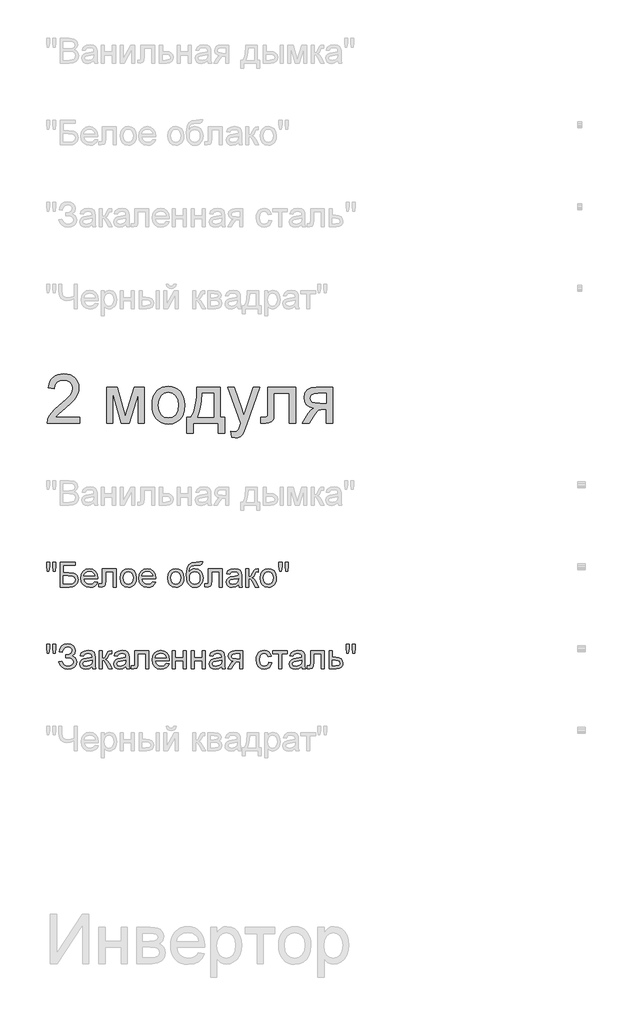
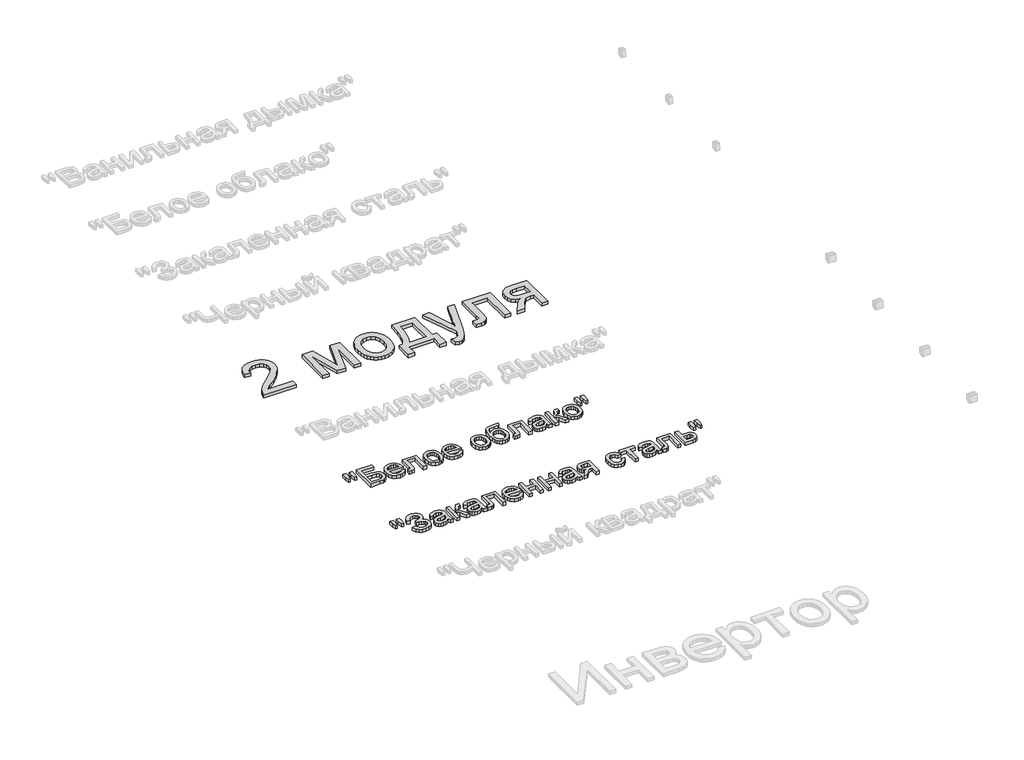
# One storey, part 51 of 168: 3 proxies.
"""IFC4 building model written with IfcOpenShell, lengths in millimetres."""

from ifc_helpers import new_model, si_unit, origin, origin_with_axes, place, context, project, spatial, polyline, outline, extrude, element, save

model = new_model("IFC4")

# Units and contexts
model_context = context("Model", 3, world=origin())
ifc_project = project(units=[si_unit("LENGTHUNIT", "METRE", prefix="MILLI")], contexts=[model_context])

# Site, building, storey
site = spatial("IfcSite", under=ifc_project)
building = spatial("IfcBuilding", under=site)
storey = spatial("IfcBuildingStorey", under=building, Name="Этаж 01", Elevation=0.0)

# Proxies
placement = place(None, origin())
element("IfcBuildingElementProxy", 1, Name="300 мм Arial 2", ObjectType="300 мм Arial 2", at=placement, inside=storey, context=model_context, shape_type="SweptSolid", body=[
    extrude(outline(polyline([(49278.0323041, -44229.1911814), (49278.0323041, -44266.8622977), (49080.2589435, -44266.8622977), (49084.3056455, -44240.8898289), (49093.5946658, -44220.5919398), (49107.1879056, -44200.901056), (49126.8511982, -44180.2904672), (49154.3503773, -44157.2334632), (49195.0013378, -44121.1258453), (49219.3919141, -44094.4727948), (49231.5872022, -44072.8413335), (49235.6522983, -44051.7984834), (49231.8171285, -44032.9353341), (49220.3116191, -44017.254364), (49202.6256922, -44006.6869537), (49180.2492698, -44003.1644836), (49156.7508074, -44006.6041802), (49138.4946633, -44016.9232702), (49126.7132424, -44033.3124131), (49122.6389493, -44054.9622685), (49084.967833, -44050.253379), (49094.1005036, -44013.8146674), (49102.6468622, -43999.27873), (49113.8465697, -43987.198405), (49127.4421086, -43977.702451), (49143.1759617, -43970.9196267), (49181.0586102, -43965.4933673), (49201.2484339, -43967.0016835), (49219.2171701, -43971.526632), (49234.9648188, -43979.0682129), (49248.4913799, -43989.6264262), (49259.3553951, -44002.4195226), (49267.1154059, -44016.6657528), (49271.7714124, -44032.365117), (49273.3234146, -44049.517615), (49271.6495515, -44067.5346357), (49266.6279623, -44085.2389567), (49257.7160209, -44103.2467804), (49244.3711016, -44122.174309), (49223.0983252, -44144.7714606), (49190.4028129, -44173.788153), (49147.0663138, -44210.0245295), (49130.0701657, -44229.1911814), (49278.0323041, -44229.1911814)])), origin_with_axes(), (0.0, 0.0, 1.0), 20.0),
    extrude(outline(polyline([(49442.843438, -44045.5444894), (49507.6642455, -44045.5444894), (49557.6226204, -44222.7164583), (49611.4805445, -44045.5444894), (49673.5790253, -44045.5444894), (49673.5790253, -44266.8622977), (49635.907909, -44266.8622977), (49635.907909, -44088.6602593), (49581.7556793, -44266.8622977), (49532.3123392, -44266.8622977), (49480.5145543, -44080.125397), (49480.5145543, -44266.8622977), (49442.843438, -44266.8622977), (49442.843438, -44045.5444894)])), origin_with_axes(), (0.0, 0.0, 1.0), 20.0),
    extrude(outline(polyline([(49720.6679207, -44156.2033936), (49722.7050673, -44127.5407876), (49728.8165069, -44102.8421102), (49739.0022396, -44082.1073612), (49753.2622655, -44065.3365408), (49767.6188603, -44054.6173791), (49783.4653773, -44046.9608351), (49800.8018163, -44042.3669087), (49819.6281774, -44040.8355999), (49840.4112109, -44042.7003018), (49859.203083, -44048.2944073), (49876.0037939, -44057.6179167), (49890.8133435, -44070.6708297), (49902.9005663, -44087.0116881), (49911.5342969, -44106.1990334), (49916.7145352, -44128.2328656), (49918.4412813, -44153.1131848), (49915.3878608, -44191.1705772), (49906.2275991, -44220.1412843), (49891.2272107, -44241.837125), (49870.6534101, -44258.069918), (49846.2168486, -44268.19587), (49819.6281774, -44271.5711873), (49798.5416413, -44269.7133832), (49779.5750252, -44264.139971), (49762.7283291, -44254.8509506), (49748.001553, -44241.8463221), (49736.0430888, -44225.3468146), (49727.5013288, -44205.5731573), (49722.3762727, -44182.5253503), (49720.6679207, -44156.2033936)]), holes=[polyline([(49758.339037, -44156.1298172), (49762.6984387, -44190.2232811), (49775.7766436, -44214.5126898), (49795.4583303, -44229.0532257), (49819.6281774, -44233.900071), (49843.6876599, -44229.0256345), (49863.3325584, -44214.4023252), (49876.4107634, -44189.7910197), (49880.770165, -44154.9525948), (49876.3831722, -44121.8524123), (49863.2221938, -44097.8940973), (49843.5497041, -44083.3535615), (49819.6281774, -44078.5067162), (49795.4583303, -44083.3351674), (49775.7766436, -44097.820521), (49762.6984387, -44122.0547474), (49758.339037, -44156.1298172)])]), origin_with_axes(), (0.0, 0.0, 1.0), 20.0),
    extrude(outline(polyline([(49993.7835139, -44045.5444894), (50135.0502001, -44045.5444894), (50135.0502001, -44229.1911814), (50163.3035373, -44229.1911814), (50163.3035373, -44328.0778617), (50125.632421, -44328.0778617), (50125.632421, -44266.8622977), (49970.2390662, -44266.8622977), (49970.2390662, -44328.0778617), (49932.5679499, -44328.0778617), (49932.5679499, -44229.1911814), (49956.1123976, -44229.1911814), (49973.2281074, -44198.2615027), (49985.2118634, -44157.3438278), (49992.0636656, -44106.4381567), (49993.7835139, -44045.5444894)]), holes=[polyline([(50026.7457407, -44083.2156057), (50023.6555319, -44129.3388109), (50017.9165728, -44169.0424752), (50009.5288633, -44202.3265987), (49998.4924035, -44229.1911814), (50097.3790838, -44229.1911814), (50097.3790838, -44083.2156057), (50026.7457407, -44083.2156057)])]), origin_with_axes(), (0.0, 0.0, 1.0), 20.0),
    extrude(outline(polyline([(50205.6835431, -44351.6223094), (50200.9746536, -44315.3491447), (50220.1045174, -44318.6600827), (50237.9835823, -44314.5030161), (50248.9464658, -44302.9147333), (50259.2471616, -44275.1764308), (50262.1902176, -44266.0529573), (50182.1390955, -44045.5444894), (50221.8703509, -44045.5444894), (50264.3239332, -44168.4170758), (50279.1127894, -44217.5661104), (50293.9016456, -44174.1560349), (50337.5324502, -44045.5444894), (50376.9694001, -44045.5444894), (50299.9349103, -44272.1597985), (50279.9221298, -44321.308833), (50269.6766162, -44336.9990001), (50258.0699393, -44347.8699131), (50244.5870641, -44354.2158775), (50228.712956, -44356.331199), (50205.6835431, -44351.6223094)])), origin_with_axes(), (0.0, 0.0, 1.0), 20.0),
    extrude(outline(polyline([(50427.0013514, -44045.5444894), (50596.5213748, -44045.5444894), (50596.5213748, -44266.6415685), (50558.8502585, -44266.6415685), (50558.8502585, -44083.2156057), (50464.6724678, -44083.2156057), (50464.6724678, -44188.7977384), (50462.134082, -44237.5053145), (50457.3792072, -44248.5325773), (50448.1913544, -44258.069918), (50434.2486268, -44264.6642028), (50415.2291276, -44266.8622977), (50384.6213456, -44264.9493114), (50384.6213456, -44229.1911814), (50401.470341, -44229.1911814), (50418.5032774, -44226.8735249), (50425.3090943, -44219.515885), (50427.0013514, -44186.6640228), (50427.0013514, -44045.5444894)])), origin_with_axes(), (0.0, 0.0, 1.0), 20.0),
    extrude(outline(polyline([(50822.5480727, -44045.5444894), (50822.5480727, -44266.8622977), (50784.8769564, -44266.8622977), (50784.8769564, -44182.102286), (50764.349141, -44182.102286), (50736.3901094, -44186.884752), (50725.2248908, -44197.3142065), (50710.1233349, -44219.0376384), (50680.1041641, -44266.8622977), (50636.5469359, -44266.8622977), (50674.365205, -44206.3824977), (50691.0670476, -44184.67746), (50706.444515, -44175.0389517), (50680.6927753, -44167.1478829), (50662.5929812, -44152.1566916), (50651.8876151, -44132.2174875), (50648.3191597, -44109.4823802), (50653.1935962, -44083.6938523), (50667.8169055, -44063.2764016), (50691.6740529, -44049.9774675), (50724.2500036, -44045.5444894), (50822.5480727, -44045.5444894)]), holes=[polyline([(50784.8769564, -44083.2156057), (50735.212887, -44083.2156057), (50709.5623149, -44085.3953066), (50695.0033849, -44091.934409), (50688.2435533, -44101.3981734), (50685.9902761, -44112.3518598), (50689.3104111, -44126.7084546), (50699.2708161, -44136.6688596), (50717.6741129, -44142.4905922), (50746.3229233, -44144.4311697), (50784.8769564, -44144.4311697), (50784.8769564, -44083.2156057)])]), origin_with_axes(), (0.0, 0.0, 1.0), 20.0),
])
element("IfcBuildingElementProxy", 2, Name="150", ObjectType="150", at=placement, inside=storey, context=model_context, shape_type="SweptSolid", body=[
    extrude(outline(polyline([(49080.1485789, -45170.3300622), (49075.550054, -45141.2305964), (49075.550054, -45116.1778325), (49094.3856121, -45116.1778325), (49094.3856121, -45141.2305964), (49090.2653338, -45170.3300622), (49080.1485789, -45170.3300622)])), origin_with_axes(), (0.0, 0.0, 1.0), 20.0),
    extrude(outline(polyline([(49117.7093306, -45170.3300622), (49113.2211703, -45141.2305964), (49113.2211703, -45116.1778325), (49132.0567284, -45116.1778325), (49132.0567284, -45141.2305964), (49127.6421445, -45170.3300622), (49117.7093306, -45170.3300622)])), origin_with_axes(), (0.0, 0.0, 1.0), 20.0),
    extrude(outline(polyline([(49157.9556209, -45116.1778325), (49252.1334117, -45116.1778325), (49252.1334117, -45135.0133907), (49176.791179, -45135.0133907), (49176.791179, -45179.7478413), (49212.0710624, -45179.7478413), (49243.157091, -45183.573814), (49253.5589544, -45189.101241), (49261.6615553, -45198.0315764), (49266.8762826, -45209.5278888), (49268.614525, -45222.7532465), (49263.6665122, -45244.2191609), (49248.8960501, -45260.5347274), (49235.6247071, -45265.2804052), (49215.4555767, -45266.8622977), (49157.9556209, -45266.8622977), (49157.9556209, -45116.1778325)]), holes=[polyline([(49176.791179, -45248.0267396), (49217.1478339, -45248.0267396), (49231.4124583, -45246.4724382), (49241.6119866, -45241.8095339), (49247.7372218, -45234.0380267), (49249.7789669, -45223.1579167), (49245.1068655, -45208.4058487), (49232.102237, -45200.533174), (49203.7201411, -45198.5833994), (49176.791179, -45198.5833994), (49176.791179, -45248.0267396)])]), origin_with_axes(), (0.0, 0.0, 1.0), 20.0),
    extrude(outline(polyline([(49369.6349209, -45233.900071), (49388.1025971, -45236.2545157), (49381.4485315, -45250.1696522), (49370.8305374, -45260.5715156), (49356.4877381, -45267.0554358), (49338.6592569, -45269.2167425), (49316.5587461, -45265.4873388), (49299.5534008, -45254.2991276), (49288.710079, -45236.3786759), (49285.0956384, -45212.4525506), (49288.7468672, -45187.7216835), (49299.7005536, -45169.2264162), (49316.4759726, -45157.6933157), (49337.5923991, -45153.8489488), (49358.0512366, -45157.6841186), (49374.3989927, -45169.189628), (49385.1181544, -45187.6481071), (49388.6912083, -45212.342186), (49388.5808437, -45217.4189576), (49303.9311966, -45217.4189576), (49307.1915508, -45231.518035), (49314.7653213, -45241.8831103), (49325.6960151, -45248.2566658), (49339.0271389, -45250.3811843), (49357.4948151, -45246.444847), (49369.6349209, -45233.900071)]), holes=[polyline([(49303.9311966, -45198.5833994), (49369.8556501, -45198.5833994), (49367.3080673, -45188.6321915), (49362.3140692, -45181.5136749), (49351.3327917, -45174.8917989), (49337.5188227, -45172.684507), (49324.8222954, -45174.445742), (49314.3238629, -45179.7294472), (49307.0260039, -45187.9654053), (49303.9311966, -45198.5833994)])]), origin_with_axes(), (0.0, 0.0, 1.0), 20.0),
    extrude(outline(polyline([(49416.9445455, -45156.2033936), (49501.7045572, -45156.2033936), (49501.7045572, -45266.7519331), (49482.868999, -45266.7519331), (49482.868999, -45175.0389517), (49435.7801036, -45175.0389517), (49435.7801036, -45227.830018), (49434.5109108, -45252.1838061), (49427.539547, -45262.4661079), (49411.0584336, -45266.8622977), (49395.7545426, -45265.9058045), (49395.7545426, -45248.0267396), (49404.1790403, -45248.0267396), (49412.6955084, -45246.8679113), (49416.0984169, -45243.1890913), (49416.9445455, -45226.7631603), (49416.9445455, -45156.2033936)])), origin_with_axes(), (0.0, 0.0, 1.0), 20.0),
    extrude(outline(polyline([(49525.2490049, -45211.5328457), (49529.323298, -45184.852204), (49541.5461773, -45166.0994193), (49556.6477332, -45156.9115664), (49574.7291332, -45153.8489488), (49594.516586, -45157.5783525), (49610.3217163, -45168.7665637), (49620.6821929, -45186.5306656), (49624.1356852, -45209.9877413), (49622.6089749, -45229.0164375), (49618.0288441, -45243.501791), (49610.5286499, -45254.3497114), (49600.2417496, -45262.4661079), (49588.0234688, -45267.5290839), (49574.7291332, -45269.2167425), (49554.7025571, -45265.5011344), (49538.915821, -45254.3543099), (49528.6657089, -45236.2177275), (49525.2490049, -45211.5328457)]), holes=[polyline([(49544.084563, -45211.4960575), (49546.2642638, -45228.5427894), (49552.8033663, -45240.6874938), (49562.6442097, -45247.9577617), (49574.7291332, -45250.3811843), (49586.7588745, -45247.9439661), (49596.5813237, -45240.6323115), (49603.1204262, -45228.3266587), (49605.300127, -45210.9074463), (49603.1066306, -45194.357355), (49596.5261414, -45182.3781975), (49586.6898966, -45175.1079296), (49574.7291332, -45172.684507), (49562.6442097, -45175.0987326), (49552.8033663, -45182.3414093), (49546.2642638, -45194.4585226), (49544.084563, -45211.4960575)])]), origin_with_axes(), (0.0, 0.0, 1.0), 20.0),
    extrude(outline(polyline([(49722.8016363, -45233.900071), (49741.2693124, -45236.2545157), (49734.6152469, -45250.1696522), (49723.9972528, -45260.5715156), (49709.6544535, -45267.0554358), (49691.8259723, -45269.2167425), (49669.7254614, -45265.4873388), (49652.7201162, -45254.2991276), (49641.8767944, -45236.3786759), (49638.2623538, -45212.4525506), (49641.9135826, -45187.7216835), (49652.867269, -45169.2264162), (49669.642688, -45157.6933157), (49690.7591145, -45153.8489488), (49711.217952, -45157.6841186), (49727.5657081, -45169.189628), (49738.2848698, -45187.6481071), (49741.8579236, -45212.342186), (49741.747559, -45217.4189576), (49657.0979119, -45217.4189576), (49660.3582661, -45231.518035), (49667.9320367, -45241.8831103), (49678.8627305, -45248.2566658), (49692.1938543, -45250.3811843), (49710.6615304, -45246.444847), (49722.8016363, -45233.900071)]), holes=[polyline([(49657.0979119, -45198.5833994), (49723.0223655, -45198.5833994), (49720.4747827, -45188.6321915), (49715.4807846, -45181.5136749), (49704.499507, -45174.8917989), (49690.6855381, -45172.684507), (49677.9890107, -45174.445742), (49667.4905783, -45179.7294472), (49660.1927192, -45187.9654053), (49657.0979119, -45198.5833994)])]), origin_with_axes(), (0.0, 0.0, 1.0), 20.0),
    extrude(outline(polyline([(49814.8457115, -45211.5328457), (49818.9200046, -45184.852204), (49831.1428839, -45166.0994193), (49846.2444398, -45156.9115664), (49864.3258398, -45153.8489488), (49884.1132926, -45157.5783525), (49899.9184229, -45168.7665637), (49910.2788995, -45186.5306656), (49913.7323918, -45209.9877413), (49912.2056815, -45229.0164375), (49907.6255507, -45243.501791), (49900.1253565, -45254.3497114), (49889.8384562, -45262.4661079), (49877.6201754, -45267.5290839), (49864.3258398, -45269.2167425), (49844.2992637, -45265.5011344), (49828.5125276, -45254.3543099), (49818.2624155, -45236.2177275), (49814.8457115, -45211.5328457)]), holes=[polyline([(49833.6812696, -45211.4960575), (49835.8609704, -45228.5427894), (49842.4000729, -45240.6874938), (49852.2409163, -45247.9577617), (49864.3258398, -45250.3811843), (49876.3555811, -45247.9439661), (49886.1780303, -45240.6323115), (49892.7171328, -45228.3266587), (49894.8968336, -45210.9074463), (49892.7033372, -45194.357355), (49886.122848, -45182.3781975), (49876.2866032, -45175.1079296), (49864.3258398, -45172.684507), (49852.2409163, -45175.0987326), (49842.4000729, -45182.3414093), (49835.8609704, -45194.4585226), (49833.6812696, -45211.4960575)])]), origin_with_axes(), (0.0, 0.0, 1.0), 20.0),
    extrude(outline(polyline([(50012.6190721, -45113.8233877), (50029.1001855, -45113.8233877), (50024.2441431, -45128.5202734), (50014.6424231, -45133.8361683), (49991.576222, -45135.0133907), (49960.5085875, -45139.3543982), (49953.3808738, -45145.0013868), (49948.5892108, -45153.2603376), (49944.560903, -45177.8716431), (49960.8764695, -45159.8454253), (49970.7954878, -45155.3480679), (49981.9009255, -45153.8489488), (50001.4998388, -45157.661126), (50017.401538, -45169.0976575), (50027.9413572, -45187.0365033), (50031.4546302, -45210.3556233), (50029.7117893, -45228.3358558), (50024.4832664, -45242.766027), (50007.9469707, -45262.3189551), (49996.6529935, -45267.4922957), (49981.9009255, -45269.2167425), (49964.9001788, -45266.995655), (49952.1576662, -45260.3323923), (49942.7812738, -45250.2064404), (49935.8788879, -45237.597285), (49931.6298508, -45218.6099755), (49930.2135052, -45189.3495614), (49933.786559, -45153.2097538), (49944.5057207, -45131.1690238), (49962.6377045, -45119.9256303), (49988.449225, -45116.1778325), (50009.4184987, -45115.7547682), (50012.6190721, -45113.8233877)]), holes=[polyline([(50012.6190721, -45209.7670121), (50010.577327, -45194.9459662), (50004.4520918, -45183.0771733), (49994.6112484, -45175.2826736), (49981.4226789, -45172.684507), (49967.6730893, -45175.4298264), (49957.473561, -45183.6657845), (49951.1551877, -45196.4910706), (49949.0490633, -45213.0043736), (49951.3759169, -45229.011839), (49958.3564778, -45240.7610702), (49968.7491442, -45247.9761558), (49981.3123143, -45250.3811843), (49993.9398638, -45247.5990768), (50003.937057, -45239.252754), (50010.4485683, -45226.3171033), (50012.6190721, -45209.7670121)])]), origin_with_axes(), (0.0, 0.0, 1.0), 20.0),
    extrude(outline(polyline([(50064.416857, -45156.2033936), (50149.1768687, -45156.2033936), (50149.1768687, -45266.7519331), (50130.3413105, -45266.7519331), (50130.3413105, -45175.0389517), (50083.2524152, -45175.0389517), (50083.2524152, -45227.830018), (50081.9832223, -45252.1838061), (50075.0118585, -45262.4661079), (50058.5307451, -45266.8622977), (50043.2268541, -45265.9058045), (50043.2268541, -45248.0267396), (50051.6513518, -45248.0267396), (50060.16782, -45246.8679113), (50063.5707284, -45243.1890913), (50064.416857, -45226.7631603), (50064.416857, -45156.2033936)])), origin_with_axes(), (0.0, 0.0, 1.0), 20.0),
    extrude(outline(polyline([(50248.063549, -45252.7356291), (50229.7982079, -45265.5011344), (50209.6198805, -45269.2167425), (50193.8791296, -45266.9818594), (50182.2678542, -45260.27721), (50175.1079508, -45250.0960758), (50172.7213164, -45237.4317381), (50176.3265599, -45222.5325173), (50185.7995213, -45211.7167867), (50198.9880908, -45205.5363691), (50215.2852632, -45202.7036778), (50247.9531844, -45196.2289547), (50248.063549, -45192.0350999), (50246.766765, -45183.6289963), (50242.8764129, -45178.1291605), (50234.1760037, -45174.0456704), (50222.0542919, -45172.684507), (50202.9980046, -45176.3081446), (50193.9113193, -45189.1656204), (50175.0757612, -45186.8111756), (50183.2243473, -45168.4170758), (50199.6318843, -45157.6381334), (50224.4823131, -45153.8489488), (50247.3093909, -45157.196675), (50260.2036548, -45165.6027786), (50265.9794022, -45178.3866779), (50266.8991071, -45194.8677913), (50266.8991071, -45218.3018744), (50267.8556003, -45251.0249778), (50271.6079967, -45266.8622977), (50252.7724385, -45266.8622977), (50248.063549, -45252.7356291)]), holes=[polyline([(50248.063549, -45215.0645128), (50217.6764962, -45220.8402601), (50201.4712943, -45223.8936807), (50194.1320485, -45228.8600876), (50191.5568745, -45236.1073629), (50197.167075, -45246.2976942), (50213.6297942, -45250.3811843), (50232.6860816, -45245.8746299), (50244.9733402, -45234.9669288), (50247.9531844, -45220.3988017), (50248.063549, -45215.0645128)])]), origin_with_axes(), (0.0, 0.0, 1.0), 20.0),
    extrude(outline(polyline([(50292.7979996, -45156.2033936), (50311.6335578, -45156.2033936), (50311.6335578, -45203.292289), (50324.2519102, -45199.9077746), (50334.5893943, -45180.1892997), (50343.1794388, -45163.1747574), (50350.7578079, -45157.6381334), (50364.5349887, -45156.2033936), (50368.1402322, -45156.2033936), (50368.1402322, -45175.1493163), (50363.0634607, -45175.0389517), (50353.8664108, -45177.0255145), (50347.3916877, -45189.4231377), (50339.7949245, -45202.8324365), (50329.1447407, -45209.3991301), (50341.0273292, -45216.7291788), (50352.6891884, -45232.1710256), (50372.8491218, -45266.8622977), (50351.4383896, -45266.8622977), (50331.6831265, -45232.9067896), (50321.7503126, -45218.5409977), (50311.6335578, -45215.0645128), (50311.6335578, -45266.8622977), (50292.7979996, -45266.8622977), (50292.7979996, -45156.2033936)])), origin_with_axes(), (0.0, 0.0, 1.0), 20.0),
    extrude(outline(polyline([(50379.9124561, -45211.5328457), (50383.9867492, -45184.852204), (50396.2096285, -45166.0994193), (50411.3111844, -45156.9115664), (50429.3925844, -45153.8489488), (50449.1800372, -45157.5783525), (50464.9851674, -45168.7665637), (50475.3456441, -45186.5306656), (50478.7991364, -45209.9877413), (50477.2724261, -45229.0164375), (50472.6922952, -45243.501791), (50465.1921011, -45254.3497114), (50454.9052008, -45262.4661079), (50442.68692, -45267.5290839), (50429.3925844, -45269.2167425), (50409.3660083, -45265.5011344), (50393.5792722, -45254.3543099), (50383.3291601, -45236.2177275), (50379.9124561, -45211.5328457)]), holes=[polyline([(50398.7480142, -45211.4960575), (50400.927715, -45228.5427894), (50407.4668175, -45240.6874938), (50417.3076609, -45247.9577617), (50429.3925844, -45250.3811843), (50441.4223257, -45247.9439661), (50451.2447749, -45240.6323115), (50457.7838774, -45228.3266587), (50459.9635782, -45210.9074463), (50457.7700818, -45194.357355), (50451.1895926, -45182.3781975), (50441.3533478, -45175.1079296), (50429.3925844, -45172.684507), (50417.3076609, -45175.0987326), (50407.4668175, -45182.3414093), (50400.927715, -45194.4585226), (50398.7480142, -45211.4960575)])]), origin_with_axes(), (0.0, 0.0, 1.0), 20.0),
    extrude(outline(polyline([(50499.8787747, -45170.3300622), (50495.2802498, -45141.2305964), (50495.2802498, -45116.1778325), (50514.1158079, -45116.1778325), (50514.1158079, -45141.2305964), (50509.9955296, -45170.3300622), (50499.8787747, -45170.3300622)])), origin_with_axes(), (0.0, 0.0, 1.0), 20.0),
    extrude(outline(polyline([(50537.4395264, -45170.3300622), (50532.9513661, -45141.2305964), (50532.9513661, -45116.1778325), (50551.7869242, -45116.1778325), (50551.7869242, -45141.2305964), (50547.3723403, -45170.3300622), (50537.4395264, -45170.3300622)])), origin_with_axes(), (0.0, 0.0, 1.0), 20.0),
])
element("IfcBuildingElementProxy", 3, Name="150", ObjectType="150", at=placement, inside=storey, context=model_context, shape_type="SweptSolid", body=[
    extrude(outline(polyline([(49080.1485789, -45670.3300622), (49075.550054, -45641.2305964), (49075.550054, -45616.1778325), (49094.3856121, -45616.1778325), (49094.3856121, -45641.2305964), (49090.2653338, -45670.3300622), (49080.1485789, -45670.3300622)])), origin_with_axes(), (0.0, 0.0, 1.0), 20.0),
    extrude(outline(polyline([(49117.7093306, -45670.3300622), (49113.2211703, -45641.2305964), (49113.2211703, -45616.1778325), (49132.0567284, -45616.1778325), (49132.0567284, -45641.2305964), (49127.6421445, -45670.3300622), (49117.7093306, -45670.3300622)])), origin_with_axes(), (0.0, 0.0, 1.0), 20.0),
    extrude(outline(polyline([(49150.8922866, -45724.4822919), (49169.7278447, -45719.7734024), (49181.2977335, -45740.172459), (49192.2284273, -45747.829003), (49206.2217387, -45750.3811843), (49220.398991, -45748.4635995), (49231.2193202, -45742.7108448), (49238.0757209, -45734.2449603), (49240.3611878, -45724.1879863), (49237.8641888, -45713.6527657), (49230.3731916, -45705.517975), (49218.5779752, -45700.3170433), (49203.1683181, -45698.5833994), (49193.2722924, -45698.5833994), (49193.2722924, -45679.7478413), (49214.591054, -45678.221131), (49227.6324708, -45670.4220327), (49233.2978535, -45656.1666054), (49231.4124583, -45647.2960508), (49225.7562726, -45639.6670979), (49216.8811195, -45634.4109839), (49205.3388219, -45632.6589459), (49186.1169876, -45638.0484171), (49175.117316, -45652.3406326), (49172.0822895, -45665.6211727), (49153.2467313, -45660.9122831), (49159.0983543, -45640.3108914), (49169.7002536, -45625.5956116), (49185.0524291, -45616.7664437), (49205.1548809, -45613.8233877), (49224.5468605, -45616.8814068), (49239.4598769, -45626.0554641), (49248.965028, -45639.3222085), (49252.1334117, -45654.6582892), (49247.2037929, -45673.3007093), (49232.4149367, -45687.2158458), (49242.8903765, -45692.0396984), (49251.5080123, -45700.1836861), (49257.2745625, -45710.948833), (49259.196746, -45723.6361633), (49255.508729, -45741.4738415), (49244.444678, -45756.1385376), (49227.2921799, -45765.9471913), (49205.3388219, -45769.2167425), (49186.2365493, -45766.4208393), (49170.7947025, -45758.0331298), (49159.0132816, -45744.053614), (49150.8922866, -45724.4822919)])), origin_with_axes(), (0.0, 0.0, 1.0), 20.0),
    extrude(outline(polyline([(49353.3745367, -45752.7356291), (49335.1091957, -45765.5011344), (49314.9308682, -45769.2167425), (49299.1901174, -45766.9818594), (49287.5788419, -45760.27721), (49280.4189386, -45750.0960758), (49278.0323041, -45737.4317381), (49281.6375477, -45722.5325173), (49291.110509, -45711.7167867), (49304.2990786, -45705.5363691), (49320.596251, -45702.7036778), (49353.2641721, -45696.2289547), (49353.3745367, -45692.0350999), (49352.0777527, -45683.6289963), (49348.1874006, -45678.1291605), (49339.4869914, -45674.0456704), (49327.3652797, -45672.684507), (49308.3089923, -45676.3081446), (49299.222307, -45689.1656204), (49280.3867489, -45686.8111756), (49288.5353351, -45668.4170758), (49304.9428721, -45657.6381334), (49329.7933008, -45653.8489488), (49352.6203786, -45657.196675), (49365.5146426, -45665.6027786), (49371.2903899, -45678.3866779), (49372.2100949, -45694.8677913), (49372.2100949, -45718.3018744), (49373.1665881, -45751.0249778), (49376.9189844, -45766.8622977), (49358.0834263, -45766.8622977), (49353.3745367, -45752.7356291)]), holes=[polyline([(49353.3745367, -45715.0645128), (49322.9874839, -45720.8402601), (49306.782282, -45723.8936807), (49299.4430362, -45728.8600876), (49296.8678623, -45736.1073629), (49302.4780627, -45746.2976942), (49318.940782, -45750.3811843), (49337.9970693, -45745.8746299), (49350.284328, -45734.9669288), (49353.2641721, -45720.3988017), (49353.3745367, -45715.0645128)])]), origin_with_axes(), (0.0, 0.0, 1.0), 20.0),
    extrude(outline(polyline([(49398.1089873, -45656.2033936), (49416.9445455, -45656.2033936), (49416.9445455, -45703.292289), (49429.5628979, -45699.9077746), (49439.900382, -45680.1892997), (49448.4904266, -45663.1747574), (49456.0687957, -45657.6381334), (49469.8459764, -45656.2033936), (49473.4512199, -45656.2033936), (49473.4512199, -45675.1493163), (49468.3744484, -45675.0389517), (49459.1773985, -45677.0255145), (49452.7026754, -45689.4231377), (49445.1059122, -45702.8324365), (49434.4557285, -45709.3991301), (49446.3383169, -45716.7291788), (49458.0001762, -45732.1710256), (49478.1601095, -45766.8622977), (49456.7493774, -45766.8622977), (49436.9941142, -45732.9067896), (49427.0613004, -45718.5409977), (49416.9445455, -45715.0645128), (49416.9445455, -45766.8622977), (49398.1089873, -45766.8622977), (49398.1089873, -45656.2033936)])), origin_with_axes(), (0.0, 0.0, 1.0), 20.0),
    extrude(outline(polyline([(49560.5656764, -45752.7356291), (49542.3003353, -45765.5011344), (49522.1220079, -45769.2167425), (49506.381257, -45766.9818594), (49494.7699816, -45760.27721), (49487.6100782, -45750.0960758), (49485.2234438, -45737.4317381), (49488.8286873, -45722.5325173), (49498.3016487, -45711.7167867), (49511.4902183, -45705.5363691), (49527.7873906, -45702.7036778), (49560.4553118, -45696.2289547), (49560.5656764, -45692.0350999), (49559.2688924, -45683.6289963), (49555.3785403, -45678.1291605), (49546.6781311, -45674.0456704), (49534.5564193, -45672.684507), (49515.500132, -45676.3081446), (49506.4134467, -45689.1656204), (49487.5778886, -45686.8111756), (49495.7264748, -45668.4170758), (49512.1340117, -45657.6381334), (49536.9844405, -45653.8489488), (49559.8115183, -45657.196675), (49572.7057822, -45665.6027786), (49578.4815296, -45678.3866779), (49579.4012346, -45694.8677913), (49579.4012346, -45718.3018744), (49580.3577277, -45751.0249778), (49584.1101241, -45766.8622977), (49565.2745659, -45766.8622977), (49560.5656764, -45752.7356291)]), holes=[polyline([(49560.5656764, -45715.0645128), (49530.1786236, -45720.8402601), (49513.9734217, -45723.8936807), (49506.6341759, -45728.8600876), (49504.0590019, -45736.1073629), (49509.6692024, -45746.2976942), (49526.1319217, -45750.3811843), (49545.188209, -45745.8746299), (49557.4754676, -45734.9669288), (49560.4553118, -45720.3988017), (49560.5656764, -45715.0645128)])]), origin_with_axes(), (0.0, 0.0, 1.0), 20.0),
    extrude(outline(polyline([(49614.7179061, -45656.2033936), (49699.4779178, -45656.2033936), (49699.4779178, -45766.7519331), (49680.6423596, -45766.7519331), (49680.6423596, -45675.0389517), (49633.5534643, -45675.0389517), (49633.5534643, -45727.830018), (49632.2842714, -45752.1838061), (49625.3129076, -45762.4661079), (49608.8317942, -45766.8622977), (49593.5279032, -45765.9058045), (49593.5279032, -45748.0267396), (49601.9524009, -45748.0267396), (49610.4688691, -45746.8679113), (49613.8717775, -45743.1890913), (49614.7179061, -45726.7631603), (49614.7179061, -45656.2033936)])), origin_with_axes(), (0.0, 0.0, 1.0), 20.0),
    extrude(outline(polyline([(49805.2072032, -45733.900071), (49823.6748794, -45736.2545157), (49817.0208138, -45750.1696522), (49806.4028197, -45760.5715156), (49792.0600204, -45767.0554358), (49774.2315392, -45769.2167425), (49752.1310283, -45765.4873388), (49735.1256831, -45754.2991276), (49724.2823613, -45736.3786759), (49720.6679207, -45712.4525506), (49724.3191495, -45687.7216835), (49735.2728359, -45669.2264162), (49752.0482549, -45657.6933157), (49773.1646814, -45653.8489488), (49793.6235189, -45657.6841186), (49809.971275, -45669.189628), (49820.6904367, -45687.6481071), (49824.2634906, -45712.342186), (49824.153126, -45717.4189576), (49739.5034789, -45717.4189576), (49742.763833, -45731.518035), (49750.3376036, -45741.8831103), (49761.2682974, -45748.2566658), (49774.5994212, -45750.3811843), (49793.0670974, -45746.444847), (49805.2072032, -45733.900071)]), holes=[polyline([(49739.5034789, -45698.5833994), (49805.4279324, -45698.5833994), (49802.8803496, -45688.6321915), (49797.8863515, -45681.5136749), (49786.9050739, -45674.8917989), (49773.091105, -45672.684507), (49760.3945777, -45674.445742), (49749.8961452, -45679.7294472), (49742.5982861, -45687.9654053), (49739.5034789, -45698.5833994)])]), origin_with_axes(), (0.0, 0.0, 1.0), 20.0),
    extrude(outline(polyline([(49843.0990487, -45656.2033936), (49861.9346069, -45656.2033936), (49861.9346069, -45698.5833994), (49911.377947, -45698.5833994), (49911.377947, -45656.2033936), (49930.2135052, -45656.2033936), (49930.2135052, -45766.8622977), (49911.377947, -45766.8622977), (49911.377947, -45717.4189576), (49861.9346069, -45717.4189576), (49861.9346069, -45766.8622977), (49843.0990487, -45766.8622977), (49843.0990487, -45656.2033936)])), origin_with_axes(), (0.0, 0.0, 1.0), 20.0),
    extrude(outline(polyline([(49958.4668424, -45656.2033936), (49977.3024005, -45656.2033936), (49977.3024005, -45698.5833994), (50026.7457407, -45698.5833994), (50026.7457407, -45656.2033936), (50045.5812988, -45656.2033936), (50045.5812988, -45766.8622977), (50026.7457407, -45766.8622977), (50026.7457407, -45717.4189576), (49977.3024005, -45717.4189576), (49977.3024005, -45766.8622977), (49958.4668424, -45766.8622977), (49958.4668424, -45656.2033936)])), origin_with_axes(), (0.0, 0.0, 1.0), 20.0),
    extrude(outline(polyline([(50144.4679792, -45752.7356291), (50126.2026381, -45765.5011344), (50106.0243107, -45769.2167425), (50090.2835598, -45766.9818594), (50078.6722843, -45760.27721), (50071.512381, -45750.0960758), (50069.1257465, -45737.4317381), (50072.7309901, -45722.5325173), (50082.2039515, -45711.7167867), (50095.392521, -45705.5363691), (50111.6896934, -45702.7036778), (50144.3576146, -45696.2289547), (50144.4679792, -45692.0350999), (50143.1711951, -45683.6289963), (50139.280843, -45678.1291605), (50130.5804338, -45674.0456704), (50118.4587221, -45672.684507), (50099.4024347, -45676.3081446), (50090.3157495, -45689.1656204), (50071.4801913, -45686.8111756), (50079.6287775, -45668.4170758), (50096.0363145, -45657.6381334), (50120.8867433, -45653.8489488), (50143.7138211, -45657.196675), (50156.608085, -45665.6027786), (50162.3838323, -45678.3866779), (50163.3035373, -45694.8677913), (50163.3035373, -45718.3018744), (50164.2600305, -45751.0249778), (50168.0124268, -45766.8622977), (50149.1768687, -45766.8622977), (50144.4679792, -45752.7356291)]), holes=[polyline([(50144.4679792, -45715.0645128), (50114.0809264, -45720.8402601), (50097.8757245, -45723.8936807), (50090.5364787, -45728.8600876), (50087.9613047, -45736.1073629), (50093.5715051, -45746.2976942), (50110.0342244, -45750.3811843), (50129.0905118, -45745.8746299), (50141.3777704, -45734.9669288), (50144.3576146, -45720.3988017), (50144.4679792, -45715.0645128)])]), origin_with_axes(), (0.0, 0.0, 1.0), 20.0),
    extrude(outline(polyline([(50273.9624415, -45656.2033936), (50273.9624415, -45766.8622977), (50255.1268833, -45766.8622977), (50255.1268833, -45724.4822919), (50244.8629756, -45724.4822919), (50230.8834598, -45726.8735249), (50217.7500726, -45742.949968), (50202.7404872, -45766.8622977), (50180.9618731, -45766.8622977), (50199.8710076, -45736.6223977), (50208.2219289, -45725.7698789), (50215.9106626, -45720.9506247), (50203.0347928, -45717.0050903), (50193.9848957, -45709.5094947), (50188.6322127, -45699.5398926), (50186.847985, -45688.172339), (50189.2852032, -45675.278075), (50196.5968579, -45665.0693497), (50208.5254316, -45658.4198826), (50224.8134069, -45656.2033936), (50273.9624415, -45656.2033936)]), holes=[polyline([(50255.1268833, -45675.0389517), (50230.2948486, -45675.0389517), (50217.4695626, -45676.1288021), (50210.1900976, -45679.3983534), (50205.6835431, -45689.6070787), (50207.3436107, -45696.7853762), (50212.3238132, -45701.7655787), (50235.8498668, -45705.6467337), (50255.1268833, -45705.6467337), (50255.1268833, -45675.0389517)])]), origin_with_axes(), (0.0, 0.0, 1.0), 20.0),
    extrude(outline(polyline([(50431.710241, -45726.8367367), (50450.5457991, -45729.1911814), (50445.2942837, -45745.9436078), (50435.4258491, -45758.6033469), (50421.8693976, -45766.5633936), (50405.5538311, -45769.2167425), (50385.518058, -45765.5149299), (50369.8508835, -45754.4094922), (50359.7387272, -45736.387873), (50356.3680084, -45711.9375159), (50357.8073467, -45695.1758924), (50362.1253616, -45680.6491522), (50369.391031, -45668.918315), (50379.6733328, -45660.5444011), (50391.974387, -45655.5228119), (50405.2963137, -45653.8489488), (50421.2118085, -45656.1482113), (50433.9359271, -45663.0459987), (50443.0639991, -45674.174429), (50448.1913544, -45689.1656204), (50429.3557962, -45691.5200651), (50420.6185988, -45677.4117906), (50405.4434665, -45672.684507), (50393.271171, -45675.0113606), (50383.6096701, -45681.9919214), (50377.3050924, -45694.0032686), (50375.2035665, -45711.4224811), (50377.2591072, -45729.0762183), (50383.4257291, -45741.1289522), (50392.9124861, -45748.0681263), (50404.9284317, -45750.3811843), (50414.6819031, -45748.9372475), (50422.678738, -45744.605437), (50428.4958721, -45737.2753883), (50431.710241, -45726.8367367)])), origin_with_axes(), (0.0, 0.0, 1.0), 20.0),
    extrude(outline(polyline([(50457.6091334, -45656.2033936), (50547.0780347, -45656.2033936), (50547.0780347, -45675.0389517), (50511.7613631, -45675.0389517), (50511.7613631, -45766.8622977), (50492.925805, -45766.8622977), (50492.925805, -45675.0389517), (50457.6091334, -45675.0389517), (50457.6091334, -45656.2033936)])), origin_with_axes(), (0.0, 0.0, 1.0), 20.0),
    extrude(outline(polyline([(50634.1924911, -45752.7356291), (50615.9271501, -45765.5011344), (50595.7488226, -45769.2167425), (50580.0080718, -45766.9818594), (50568.3967963, -45760.27721), (50561.236893, -45750.0960758), (50558.8502585, -45737.4317381), (50562.4555021, -45722.5325173), (50571.9284634, -45711.7167867), (50585.117033, -45705.5363691), (50601.4142054, -45702.7036778), (50634.0821265, -45696.2289547), (50634.1924911, -45692.0350999), (50632.8957071, -45683.6289963), (50629.005355, -45678.1291605), (50620.3049458, -45674.0456704), (50608.1832341, -45672.684507), (50589.1269467, -45676.3081446), (50580.0402614, -45689.1656204), (50561.2047033, -45686.8111756), (50569.3532895, -45668.4170758), (50585.7608265, -45657.6381334), (50610.6112552, -45653.8489488), (50633.438333, -45657.196675), (50646.332597, -45665.6027786), (50652.1083443, -45678.3866779), (50653.0280493, -45694.8677913), (50653.0280493, -45718.3018744), (50653.9845425, -45751.0249778), (50657.7369388, -45766.8622977), (50638.9013807, -45766.8622977), (50634.1924911, -45752.7356291)]), holes=[polyline([(50634.1924911, -45715.0645128), (50603.8054383, -45720.8402601), (50587.6002364, -45723.8936807), (50580.2609906, -45728.8600876), (50577.6858167, -45736.1073629), (50583.2960171, -45746.2976942), (50599.7587364, -45750.3811843), (50618.8150237, -45745.8746299), (50631.1022824, -45734.9669288), (50634.0821265, -45720.3988017), (50634.1924911, -45715.0645128)])]), origin_with_axes(), (0.0, 0.0, 1.0), 20.0),
    extrude(outline(polyline([(50688.3447208, -45656.2033936), (50773.1047325, -45656.2033936), (50773.1047325, -45766.7519331), (50754.2691744, -45766.7519331), (50754.2691744, -45675.0389517), (50707.180279, -45675.0389517), (50707.180279, -45727.830018), (50705.9110861, -45752.1838061), (50698.9397223, -45762.4661079), (50682.4586089, -45766.8622977), (50667.1547179, -45765.9058045), (50667.1547179, -45748.0267396), (50675.5792156, -45748.0267396), (50684.0956838, -45746.8679113), (50687.4985922, -45743.1890913), (50688.3447208, -45726.7631603), (50688.3447208, -45656.2033936)])), origin_with_axes(), (0.0, 0.0, 1.0), 20.0),
    extrude(outline(polyline([(50801.3580697, -45656.2033936), (50820.1936279, -45656.2033936), (50820.1936279, -45696.2289547), (50841.8986656, -45696.2289547), (50860.7158297, -45698.587998), (50874.6401632, -45705.6651278), (50883.2486019, -45716.8901272), (50886.1180814, -45731.692779), (50883.6762647, -45745.1710556), (50876.3508145, -45756.5432078), (50863.6542871, -45764.2825252), (50845.099239, -45766.8622977), (50801.3580697, -45766.8622977), (50801.3580697, -45656.2033936)]), holes=[polyline([(50820.1936279, -45748.0267396), (50837.7783873, -45748.0267396), (50860.4951005, -45744.0720081), (50865.5856676, -45739.0090322), (50867.2825233, -45731.7295672), (50862.260934, -45720.1412843), (50854.1905228, -45716.3337057), (50840.0224674, -45715.0645128), (50820.1936279, -45715.0645128), (50820.1936279, -45748.0267396)])]), origin_with_axes(), (0.0, 0.0, 1.0), 20.0),
    extrude(outline(polyline([(50909.5521645, -45670.3300622), (50904.9536396, -45641.2305964), (50904.9536396, -45616.1778325), (50923.7891977, -45616.1778325), (50923.7891977, -45641.2305964), (50919.6689194, -45670.3300622), (50909.5521645, -45670.3300622)])), origin_with_axes(), (0.0, 0.0, 1.0), 20.0),
    extrude(outline(polyline([(50947.1129162, -45670.3300622), (50942.6247559, -45641.2305964), (50942.6247559, -45616.1778325), (50961.460314, -45616.1778325), (50961.460314, -45641.2305964), (50957.0457301, -45670.3300622), (50947.1129162, -45670.3300622)])), origin_with_axes(), (0.0, 0.0, 1.0), 20.0),
])

save(model, "model.ifc")
